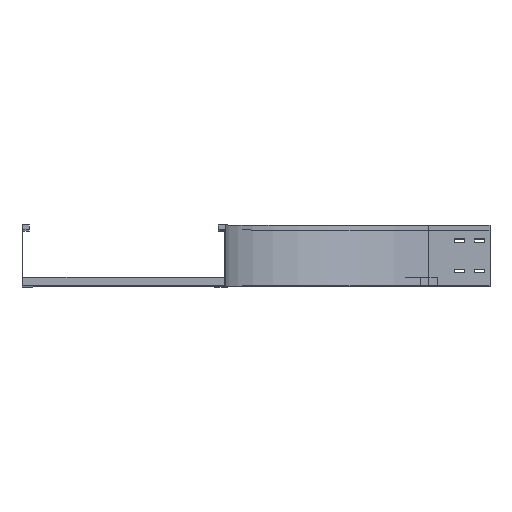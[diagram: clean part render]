
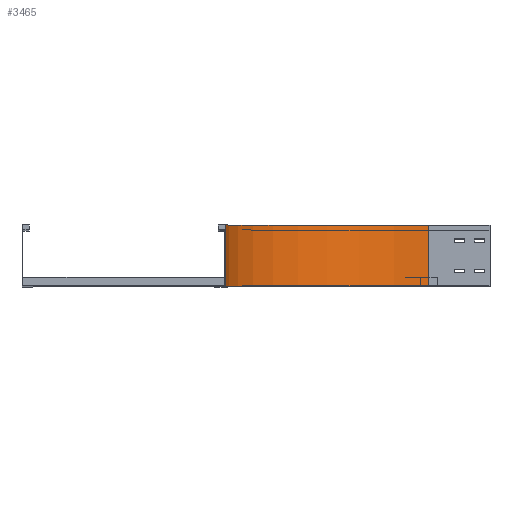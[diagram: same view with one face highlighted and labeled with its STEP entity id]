
A CAD part, top view. The second image highlights one B-rep face of the part: STEP entity #3465.
In plain terms, the highlighted cylindrical face has radius 500 mm (diameter 1000 mm), a partial arc.
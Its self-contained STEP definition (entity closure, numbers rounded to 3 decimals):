
#49 = VERTEX_POINT ( 'NONE', #2648 ) ;
#223 = EDGE_CURVE ( 'NONE', #597, #49, #2878, .T. ) ;
#282 = AXIS2_PLACEMENT_3D ( 'NONE', #1705, #2657, #408 ) ;
#408 = DIRECTION ( 'NONE',  ( -1., 0., 0. ) ) ;
#597 = VERTEX_POINT ( 'NONE', #2866 ) ;
#695 = CARTESIAN_POINT ( 'NONE',  ( 500., 0., -650. ) ) ;
#804 = CYLINDRICAL_SURFACE ( 'NONE', #3739, 500. ) ;
#1173 = CARTESIAN_POINT ( 'NONE',  ( 500., 0., -150. ) ) ;
#1207 = DIRECTION ( 'NONE',  ( -1., 0., 0. ) ) ;
#1221 = AXIS2_PLACEMENT_3D ( 'NONE', #3494, #1529, #1207 ) ;
#1529 = DIRECTION ( 'NONE',  ( 0., -1., 0. ) ) ;
#1705 = CARTESIAN_POINT ( 'NONE',  ( 500., 150., -150. ) ) ;
#1710 = CARTESIAN_POINT ( 'NONE',  ( 500., 150., -650. ) ) ;
#1907 = EDGE_CURVE ( 'NONE', #49, #4179, #3913, .T. ) ;
#1992 = ORIENTED_EDGE ( 'NONE', *, *, #3334, .F. ) ;
#2230 = DIRECTION ( 'NONE',  ( 0., 1., 0. ) ) ;
#2277 = CIRCLE ( 'NONE', #282, 500. ) ;
#2449 = VERTEX_POINT ( 'NONE', #3073 ) ;
#2648 = CARTESIAN_POINT ( 'NONE',  ( 500., 0., -650. ) ) ;
#2657 = DIRECTION ( 'NONE',  ( 0., -1., 0. ) ) ;
#2866 = CARTESIAN_POINT ( 'NONE',  ( 0., 0., -150. ) ) ;
#2878 = CIRCLE ( 'NONE', #1221, 500. ) ;
#2905 = VECTOR ( 'NONE', #3641, 1000. ) ;
#2963 = ORIENTED_EDGE ( 'NONE', *, *, #1907, .T. ) ;
#3073 = CARTESIAN_POINT ( 'NONE',  ( 0., 150., -150. ) ) ;
#3163 = DIRECTION ( 'NONE',  ( 0., 0., -1. ) ) ;
#3187 = VECTOR ( 'NONE', #2230, 1000. ) ;
#3334 = EDGE_CURVE ( 'NONE', #2449, #4179, #2277, .T. ) ;
#3465 = ADVANCED_FACE ( 'NONE', ( #3659 ), #804, .F. ) ;
#3494 = CARTESIAN_POINT ( 'NONE',  ( 500., 0., -150. ) ) ;
#3592 = LINE ( 'NONE', #4208, #3187 ) ;
#3616 = EDGE_LOOP ( 'NONE', ( #1992, #4019, #4247, #2963 ) ) ;
#3641 = DIRECTION ( 'NONE',  ( 0., 1., 0. ) ) ;
#3659 = FACE_OUTER_BOUND ( 'NONE', #3616, .T. ) ;
#3669 = EDGE_CURVE ( 'NONE', #597, #2449, #3592, .T. ) ;
#3739 = AXIS2_PLACEMENT_3D ( 'NONE', #1173, #3798, #3163 ) ;
#3798 = DIRECTION ( 'NONE',  ( 0., -1., 0. ) ) ;
#3913 = LINE ( 'NONE', #695, #2905 ) ;
#4019 = ORIENTED_EDGE ( 'NONE', *, *, #3669, .F. ) ;
#4179 = VERTEX_POINT ( 'NONE', #1710 ) ;
#4208 = CARTESIAN_POINT ( 'NONE',  ( 0., 0., -150. ) ) ;
#4247 = ORIENTED_EDGE ( 'NONE', *, *, #223, .T. ) ;
